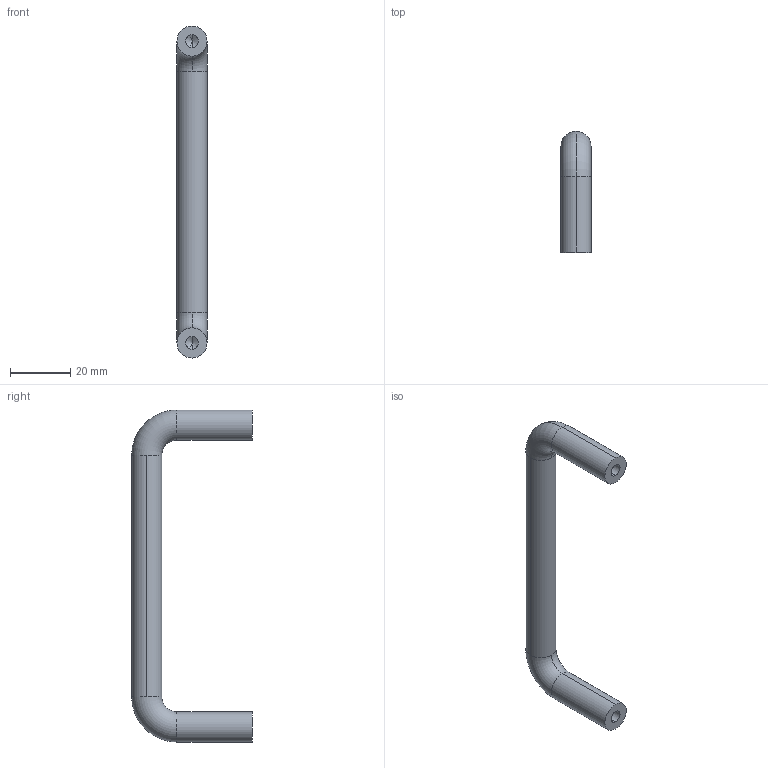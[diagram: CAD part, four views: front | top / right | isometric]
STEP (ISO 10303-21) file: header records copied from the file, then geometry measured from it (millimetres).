
FILE_DESCRIPTION (( 'STEP AP203' ), '1' );
FILE_NAME ('E03-503100.STEP', '2023-04-20T06:40:58', ( '' ), ( '' ), 'SwSTEP 2.0', 'SolidWorks 2021', '' );
FILE_SCHEMA (( 'CONFIG_CONTROL_DESIGN' ));
Length unit declared in the file: millimetre
Products named in the file (1): E03-503100
Bounding box: 10 x 40 x 110 mm (x, y, z)
Volume: 12278 mm3; surface area: 5602.2 mm2
Topology: 1 solids, 1 shells, 20 faces, 46 edges, 26 vertices
Faces by surface type: cylinder 10, torus 4, cone 4, plane 2
Entity records: 623 total; most frequent: DIRECTION 112, CARTESIAN_POINT 89, ORIENTED_EDGE 84, AXIS2_PLACEMENT_3D 49, EDGE_CURVE 42, CIRCLE 28, VERTEX_POINT 26, EDGE_LOOP 22
